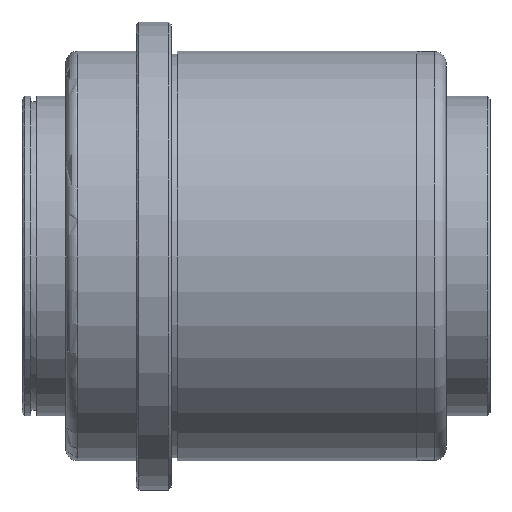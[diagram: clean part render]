
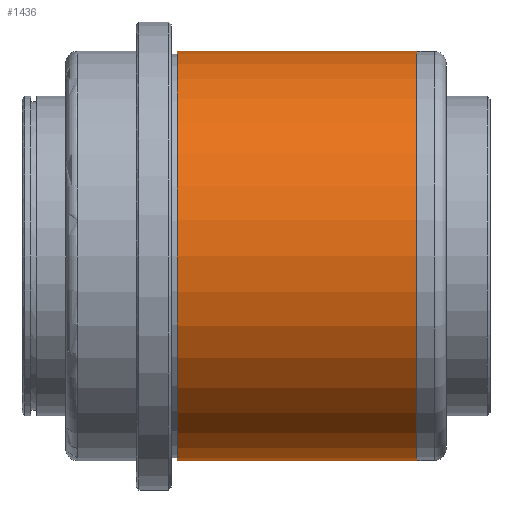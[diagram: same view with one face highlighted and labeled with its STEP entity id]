
A CAD part, front view. The second image highlights one B-rep face of the part: STEP entity #1436.
In plain terms, the highlighted cylindrical face has radius 35 mm (diameter 70 mm), a partial arc.
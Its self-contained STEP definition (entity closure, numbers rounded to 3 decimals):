
#1270=CARTESIAN_POINT('Vertex',(60.,0.,35.)) ;
#1273=CARTESIAN_POINT('Axis2P3D Location',(60.,0.,0.)) ;
#1277=CARTESIAN_POINT('Vertex',(60.,-35.,0.)) ;
#1280=CARTESIAN_POINT('Axis2P3D Location',(60.,0.,0.)) ;
#1284=CARTESIAN_POINT('Vertex',(60.,0.,-35.)) ;
#1376=CARTESIAN_POINT('Line Origine',(65.,0.,35.)) ;
#1380=CARTESIAN_POINT('Vertex',(19.,0.,35.)) ;
#1383=CARTESIAN_POINT('Line Origine',(65.,0.,-35.)) ;
#1387=CARTESIAN_POINT('Vertex',(19.,0.,-35.)) ;
#1411=CARTESIAN_POINT('Axis2P3D Location',(65.,0.,0.)) ;
#1416=CARTESIAN_POINT('Axis2P3D Location',(19.,0.,0.)) ;
#1420=CARTESIAN_POINT('Vertex',(19.,-35.,0.)) ;
#1423=CARTESIAN_POINT('Axis2P3D Location',(19.,0.,0.)) ;
#1274=DIRECTION('Axis2P3D Direction',(1.,0.,-0.)) ;
#1281=DIRECTION('Axis2P3D Direction',(1.,0.,-0.)) ;
#1377=DIRECTION('Vector Direction',(-1.,0.,0.)) ;
#1384=DIRECTION('Vector Direction',(-1.,0.,0.)) ;
#1412=DIRECTION('Axis2P3D Direction',(-1.,-0.,-0.)) ;
#1413=DIRECTION('Axis2P3D XDirection',(0.,0.,-1.)) ;
#1417=DIRECTION('Axis2P3D Direction',(-1.,-0.,-0.)) ;
#1424=DIRECTION('Axis2P3D Direction',(-1.,-0.,-0.)) ;
#1275=AXIS2_PLACEMENT_3D('Circle Axis2P3D',#1273,#1274,$) ;
#1282=AXIS2_PLACEMENT_3D('Circle Axis2P3D',#1280,#1281,$) ;
#1414=AXIS2_PLACEMENT_3D('Cylinder Axis2P3D',#1411,#1412,#1413) ;
#1418=AXIS2_PLACEMENT_3D('Circle Axis2P3D',#1416,#1417,$) ;
#1425=AXIS2_PLACEMENT_3D('Circle Axis2P3D',#1423,#1424,$) ;
#1429=ORIENTED_EDGE('',*,*,#1389,.T.) ;
#1430=ORIENTED_EDGE('',*,*,#1286,.F.) ;
#1431=ORIENTED_EDGE('',*,*,#1279,.F.) ;
#1432=ORIENTED_EDGE('',*,*,#1382,.T.) ;
#1433=ORIENTED_EDGE('',*,*,#1422,.T.) ;
#1434=ORIENTED_EDGE('',*,*,#1427,.T.) ;
#1378=VECTOR('Line Direction',#1377,1.) ;
#1385=VECTOR('Line Direction',#1384,1.) ;
#1436=ADVANCED_FACE('732-48',(#1435),#1415,.T.) ;
#1276=CIRCLE('generated circle',#1275,35.) ;
#1283=CIRCLE('generated circle',#1282,35.) ;
#1419=CIRCLE('generated circle',#1418,35.) ;
#1426=CIRCLE('generated circle',#1425,35.) ;
#1415=CYLINDRICAL_SURFACE('generated cylinder',#1414,35.) ;
#1279=EDGE_CURVE('',#1271,#1278,#1276,.T.) ;
#1286=EDGE_CURVE('',#1278,#1285,#1283,.T.) ;
#1382=EDGE_CURVE('',#1271,#1381,#1379,.T.) ;
#1389=EDGE_CURVE('',#1388,#1285,#1386,.F.) ;
#1422=EDGE_CURVE('',#1381,#1421,#1419,.F.) ;
#1427=EDGE_CURVE('',#1421,#1388,#1426,.F.) ;
#1428=EDGE_LOOP('',(#1429,#1430,#1431,#1432,#1433,#1434)) ;
#1435=FACE_OUTER_BOUND('',#1428,.T.) ;
#1379=LINE('Line',#1376,#1378) ;
#1386=LINE('Line',#1383,#1385) ;
#1271=VERTEX_POINT('',#1270) ;
#1278=VERTEX_POINT('',#1277) ;
#1285=VERTEX_POINT('',#1284) ;
#1381=VERTEX_POINT('',#1380) ;
#1388=VERTEX_POINT('',#1387) ;
#1421=VERTEX_POINT('',#1420) ;
